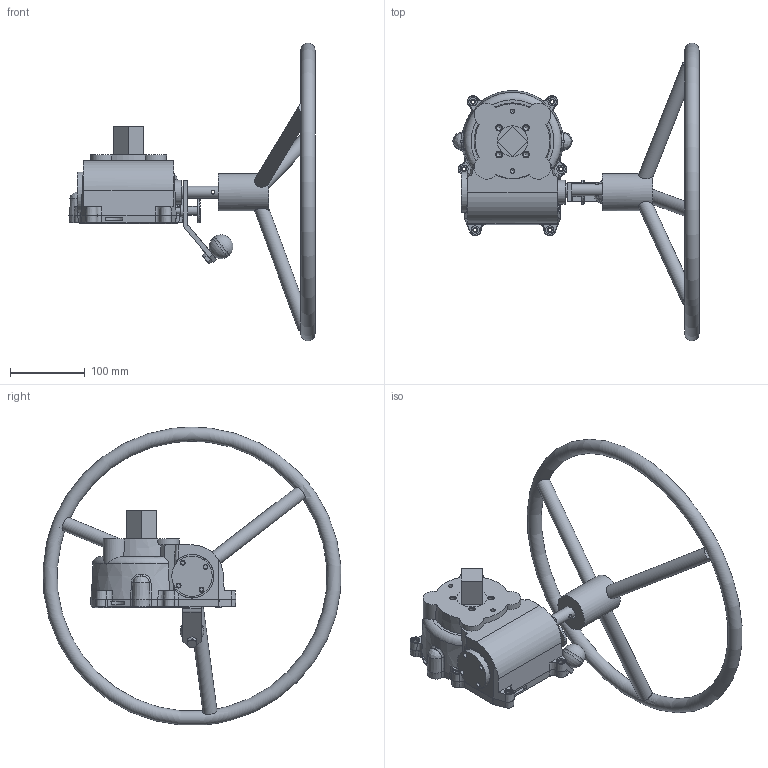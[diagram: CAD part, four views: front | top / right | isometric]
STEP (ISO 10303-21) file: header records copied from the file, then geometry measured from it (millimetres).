
FILE_DESCRIPTION( ( 'Unknown' ), '1' );
FILE_NAME( 'Z:/3D Models for Customers/K BOX/SIMPLE 140 KBOX LH Gearbox Assembly.stp', 'Unknown', ( 'Unknown' ), ( 'Unknown' ), 'PSStep 17.0.49', 'Unknown', ' ' );
FILE_SCHEMA( ( 'AUTOMOTIVE_DESIGN { 1 0 10303 214 1 1 1 1 }' ) );
Length unit declared in the file: millimetre
Products named in the file (15): 93000010 Declutch Lever Assembly; 93007001 RH Lever for K-Box; 654055 Ball Knob 32dia RS686-036; M8x16 hex.hd.; 93008 Detent Housing; 93010 Flat Knob; 93009 Detent; Assem1; 93003022 Model 07 K-Box Housing M.C; 93004004 Model 07 Base Plate M.C; 93015 Gearbox End Plate; DUMMY ECCENTRIC; 93014 Gearbox Shaft; DUMMY 144 SHAFT; 599107 Handwheel 410
Assembly tree (15 placements, depth 3):
  Assem1
    93003022 Model 07 K-Box Housing M.C
    93004004 Model 07 Base Plate M.C
    93015 Gearbox End Plate
    DUMMY ECCENTRIC  x2
    93014 Gearbox Shaft
    DUMMY 144 SHAFT
    599107 Handwheel 410
    93000010 Declutch Lever Assembly
      93007001 RH Lever for K-Box
      654055 Ball Knob 32dia RS686-036
      M8x16 hex.hd.
      93008 Detent Housing
      93010 Flat Knob
      93009 Detent
Bounding box: 329.85 x 399.12 x 399.36 mm (x, y, z)
Volume: 1700994.9 mm3; surface area: 342993.7 mm2
Topology: 14 solids, 14 shells, 461 faces, 1207 edges, 780 vertices
Faces by surface type: cylinder 151, plane 149, cone 96, torus 25, bspline 24, sphere 16
Full cylindrical faces by diameter (mm): 1.3 x2, 3.3 x2, 4.2 x1, 4.4 x2, 5 x18, 5.001 x1, 5.1 x1, 6 x2, 6.5 x10, 6.8 x5, 8 x2, 8.1 x1, 8.5 x4, 8.7 x1, 9 x4, 11 x6, 11.875 x1, 12 x5, 12.02 x1, 16 x7, 16.5 x1, 19 x5, 23 x1, 23.5 x1, 26.5 x1, 28.75 x1, 32 x5, 32.02 x1, 35.3 x2, 41 x1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
Entity records: 21188 total; most frequent: CARTESIAN_POINT 6965, DIRECTION 2242, ORIENTED_EDGE 1894, AXIS2_PLACEMENT_3D 988, EDGE_CURVE 947, VERTEX_POINT 705, EDGE_LOOP 699, FACE_OUTER_BOUND 556
